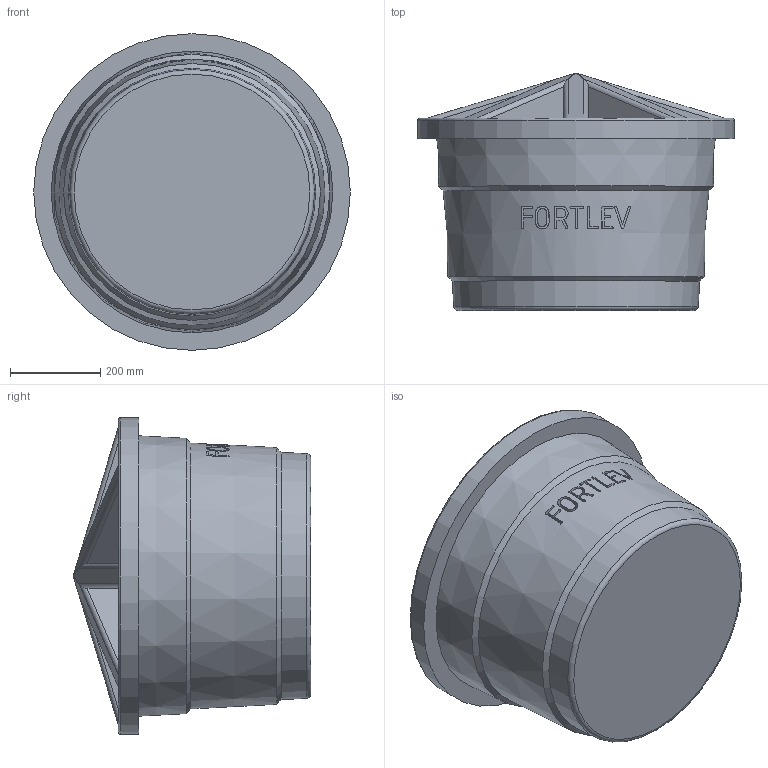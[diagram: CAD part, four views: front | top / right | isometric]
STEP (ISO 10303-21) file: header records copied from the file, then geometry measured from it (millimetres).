
FILE_DESCRIPTION(('STEP AP214'),'1');
FILE_NAME('C:/Users/Rodrigo/Desktop/CAIXA D’ÁGUA DE POLIETILENO.step','2017-04-13T11:56:12',(' '),(' '),'Spatial InterOp 3D',' ',' ');
FILE_SCHEMA(('automotive_design'));
Length unit declared in the file: millimetre
Products named in the file (1): CAIXA D__GUA DE POLIETILENO
Bounding box: 700 x 524.73 x 700 mm (x, y, z)
Volume: 124257623.6 mm3; surface area: 1798391.8 mm2
Topology: 1 solids, 1 shells, 99 faces, 224 edges, 137 vertices
Faces by surface type: plane 39, cylinder 26, extrusion 15, sphere 10, cone 7, torus 2
Full cylindrical faces by diameter (mm): 622.974 x1, 700 x1
Entity records: 6264 total; most frequent: CARTESIAN_POINT 2348, ORIENTED_EDGE 412, DIRECTION 405, STYLED_ITEM 305, PRESENTATION_STYLE_ASSIGNMENT 305, COLOUR_RGB 305, EDGE_CURVE 206, CURVE_STYLE 206
